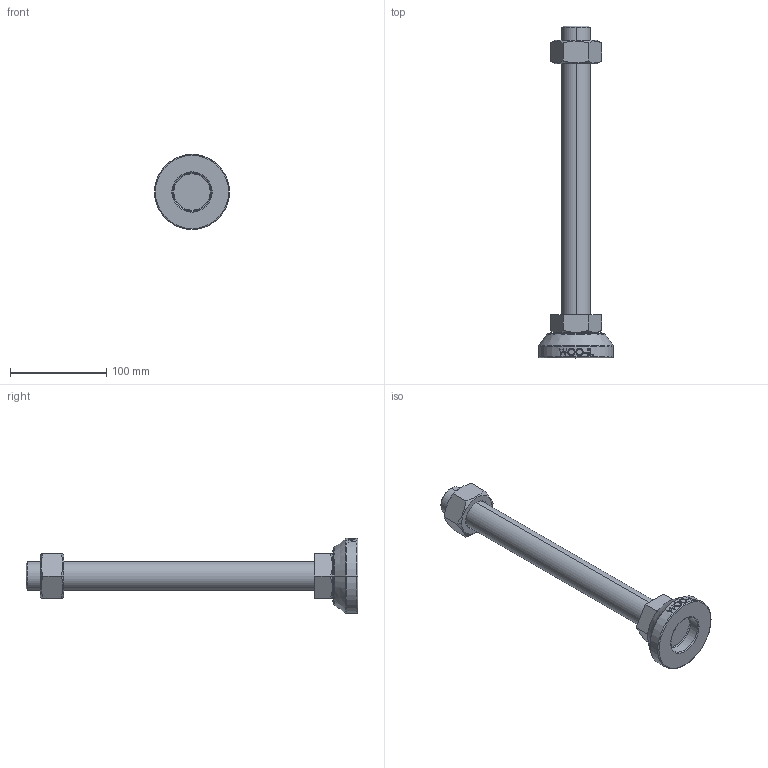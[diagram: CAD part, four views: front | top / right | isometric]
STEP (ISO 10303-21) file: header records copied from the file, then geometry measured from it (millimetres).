
FILE_DESCRIPTION (( 'STEP AP214' ), '1' );
FILE_NAME ('MF78-M30-300.step', '2021-02-03T08:23:11', ( '' ), ( '' ), 'SwSTEP 2.0', 'SolidWorks 2019', '' );
FILE_SCHEMA (( 'AUTOMOTIVE_DESIGN' ));
Length unit declared in the file: millimetre
Products named in the file (2): MF78-M30-300
Bounding box: 78 x 345 x 78 mm (x, y, z)
Volume: 366387.6 mm3; surface area: 58197.9 mm2
Topology: 3 solids, 3 shells, 106 faces, 243 edges, 154 vertices
Faces by surface type: plane 48, cylinder 18, bspline 16, cone 14, torus 10
Entity records: 4556 total; most frequent: CARTESIAN_POINT 2213, ORIENTED_EDGE 486, DIRECTION 439, EDGE_CURVE 243, AXIS2_PLACEMENT_3D 170, VERTEX_POINT 154, EDGE_LOOP 119, ADVANCED_FACE 106
